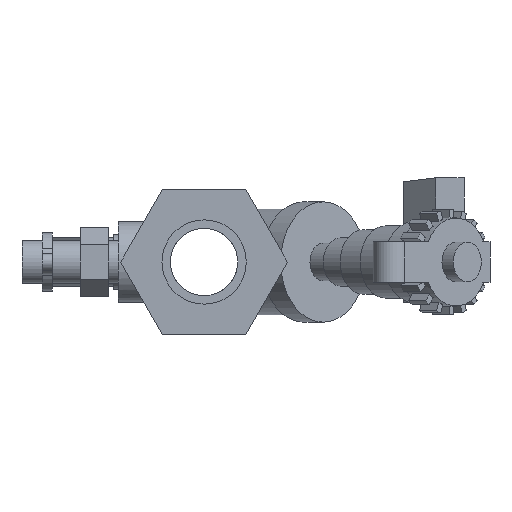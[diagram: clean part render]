
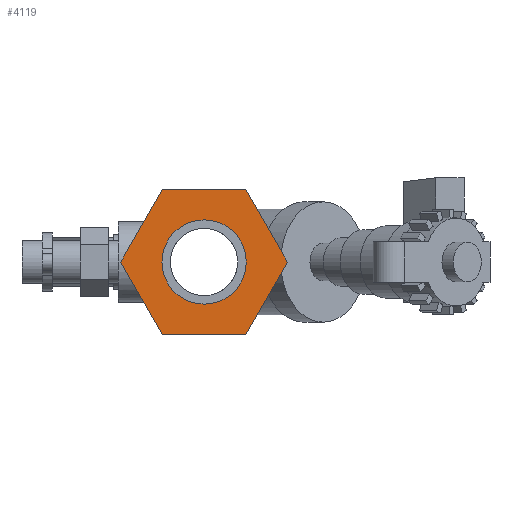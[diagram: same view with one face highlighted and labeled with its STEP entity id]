
A CAD part, left-side view. The second image highlights one B-rep face of the part: STEP entity #4119.
In plain terms, the highlighted planar face has unit normal (-1, 0, 0).
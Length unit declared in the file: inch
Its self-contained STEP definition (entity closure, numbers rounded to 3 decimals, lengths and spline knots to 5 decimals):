
#57=FACE_BOUND('',#472,.T.);
#227=FACE_OUTER_BOUND('',#471,.T.);
#471=EDGE_LOOP('',(#2825,#2826,#2827,#2828,#2829,#2830));
#472=EDGE_LOOP('',(#2831));
#754=LINE('',#6750,#1113);
#755=LINE('',#6752,#1114);
#756=LINE('',#6754,#1115);
#757=LINE('',#6756,#1116);
#758=LINE('',#6758,#1117);
#759=LINE('',#6759,#1118);
#1113=VECTOR('',#4996,0.3937);
#1114=VECTOR('',#4997,0.3937);
#1115=VECTOR('',#4998,0.3937);
#1116=VECTOR('',#4999,0.3937);
#1117=VECTOR('',#5000,0.3937);
#1118=VECTOR('',#5001,0.3937);
#1461=CIRCLE('',#4423,0.5255);
#1707=VERTEX_POINT('',#6748);
#1708=VERTEX_POINT('',#6749);
#1709=VERTEX_POINT('',#6751);
#1710=VERTEX_POINT('',#6753);
#1711=VERTEX_POINT('',#6755);
#1712=VERTEX_POINT('',#6757);
#1713=VERTEX_POINT('',#6760);
#2139=EDGE_CURVE('',#1707,#1708,#754,.T.);
#2140=EDGE_CURVE('',#1708,#1709,#755,.T.);
#2141=EDGE_CURVE('',#1709,#1710,#756,.T.);
#2142=EDGE_CURVE('',#1710,#1711,#757,.T.);
#2143=EDGE_CURVE('',#1711,#1712,#758,.T.);
#2144=EDGE_CURVE('',#1712,#1707,#759,.T.);
#2145=EDGE_CURVE('',#1713,#1713,#1461,.T.);
#2825=ORIENTED_EDGE('',*,*,#2139,.T.);
#2826=ORIENTED_EDGE('',*,*,#2140,.T.);
#2827=ORIENTED_EDGE('',*,*,#2141,.T.);
#2828=ORIENTED_EDGE('',*,*,#2142,.T.);
#2829=ORIENTED_EDGE('',*,*,#2143,.T.);
#2830=ORIENTED_EDGE('',*,*,#2144,.T.);
#2831=ORIENTED_EDGE('',*,*,#2145,.F.);
#3827=PLANE('',#4422);
#4119=ADVANCED_FACE('',(#227,#57),#3827,.T.);
#4422=AXIS2_PLACEMENT_3D('',#6747,#4994,#4995);
#4423=AXIS2_PLACEMENT_3D('',#6761,#5002,#5003);
#4994=DIRECTION('center_axis',(-1.,0.,0.));
#4995=DIRECTION('ref_axis',(0.,0.,1.));
#4996=DIRECTION('',(0.,1.,0.));
#4997=DIRECTION('',(0.,0.5,-0.866));
#4998=DIRECTION('',(0.,-0.5,-0.866));
#4999=DIRECTION('',(0.,-1.,0.));
#5000=DIRECTION('',(0.,-0.5,0.866));
#5001=DIRECTION('',(0.,0.5,0.866));
#5002=DIRECTION('center_axis',(-1.,0.,0.));
#5003=DIRECTION('ref_axis',(0.,1.,0.));
#6747=CARTESIAN_POINT('Origin',(-2.87,0.,0.));
#6748=CARTESIAN_POINT('',(-2.87,-0.51962,0.9));
#6749=CARTESIAN_POINT('',(-2.87,0.51962,0.9));
#6750=CARTESIAN_POINT('',(-2.87,0.51962,0.9));
#6751=CARTESIAN_POINT('',(-2.87,1.03923,0.));
#6752=CARTESIAN_POINT('',(-2.87,1.03923,0.));
#6753=CARTESIAN_POINT('',(-2.87,0.51962,-0.9));
#6754=CARTESIAN_POINT('',(-2.87,0.51962,-0.9));
#6755=CARTESIAN_POINT('',(-2.87,-0.51962,-0.9));
#6756=CARTESIAN_POINT('',(-2.87,-0.51962,-0.9));
#6757=CARTESIAN_POINT('',(-2.87,-1.03923,0.));
#6758=CARTESIAN_POINT('',(-2.87,-1.03923,0.));
#6759=CARTESIAN_POINT('',(-2.87,-0.51962,0.9));
#6760=CARTESIAN_POINT('',(-2.87,-0.5255,0.));
#6761=CARTESIAN_POINT('Origin',(-2.87,0.,0.));
